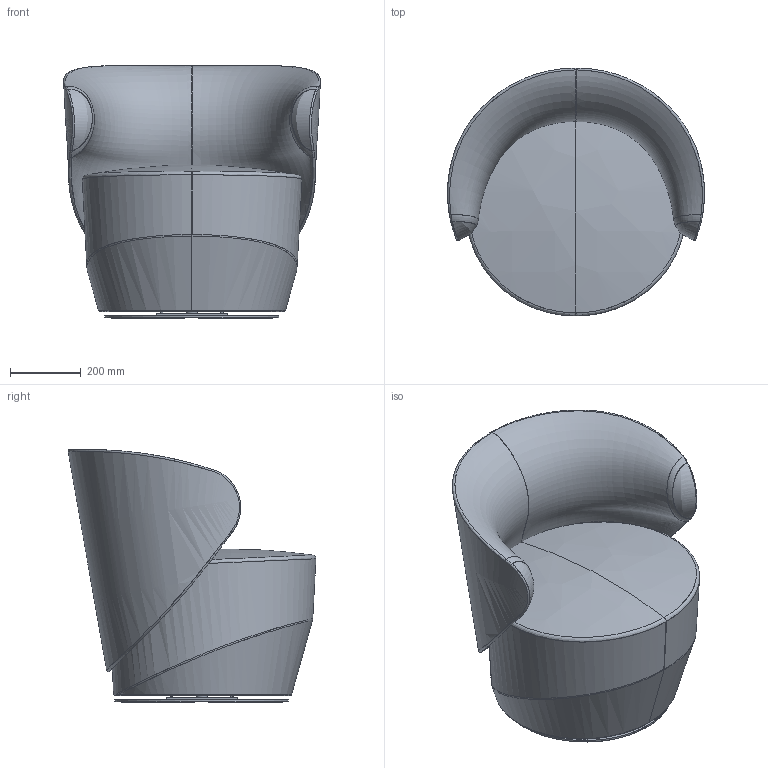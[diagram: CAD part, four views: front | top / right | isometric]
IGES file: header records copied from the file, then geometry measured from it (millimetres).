
Global section: file name: Z:\_CS-Cyberplast - FLESSIBILE\Progetti CS\Selen\Rev 2 - ATTUALE\SELEN - Poltrona.igs; native system: Rhinoceros ( Dec  3 2024 ); preprocessor: Trout Lake IGES 012 Dec  3 2024; date: 260311.150451; units: millimetre
Bounding box: 724.49 x 698.65 x 713.2 mm (x, y, z)
Surface area: 3377813.4 mm2 (no closed solid volume)
Topology: 0 solids, 0 shells, 231 faces, 3839 edges, 3793 vertices
Faces by surface type: bspline 231
